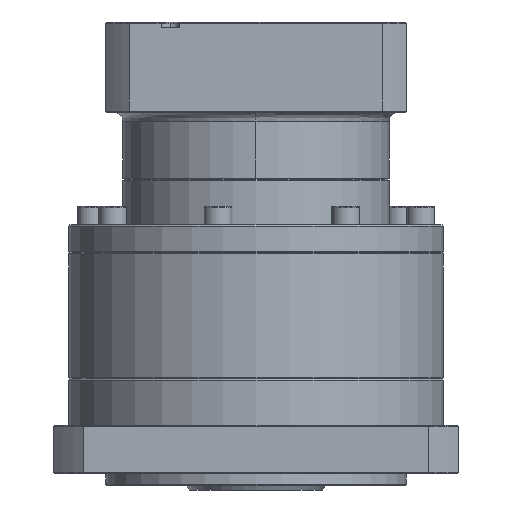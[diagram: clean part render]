
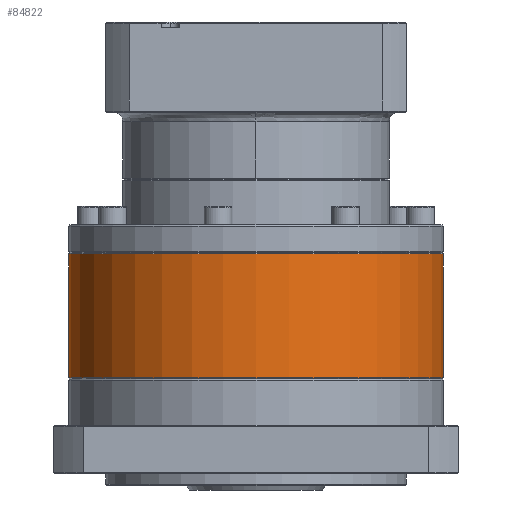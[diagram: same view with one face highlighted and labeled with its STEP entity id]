
A CAD part, left-side view. The second image highlights one B-rep face of the part: STEP entity #84822.
In plain terms, the highlighted cylindrical face has radius 81 mm (diameter 162 mm), a partial arc.
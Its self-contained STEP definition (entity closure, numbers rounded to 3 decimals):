
#1466 = AXIS2_PLACEMENT_3D ( 'NONE', #98464, #73414, #89413 ) ;
#2026 = ORIENTED_EDGE ( 'NONE', *, *, #23699, .F. ) ;
#3093 = DIRECTION ( 'NONE',  ( 0., 0., -1. ) ) ;
#3280 = CARTESIAN_POINT ( 'NONE',  ( -129.032, 142.212, -75.292 ) ) ;
#4763 = DIRECTION ( 'NONE',  ( 0., 0., -1. ) ) ;
#8259 = CYLINDRICAL_SURFACE ( 'NONE', #1466, 81. ) ;
#8547 = EDGE_CURVE ( 'NONE', #18905, #92610, #34177, .T. ) ;
#8886 = CARTESIAN_POINT ( 'NONE',  ( -129.032, 142.212, -129.292 ) ) ;
#11123 = DIRECTION ( 'NONE',  ( 0., 0., -1. ) ) ;
#11891 = VERTEX_POINT ( 'NONE', #96924 ) ;
#14584 = FACE_OUTER_BOUND ( 'NONE', #18323, .T. ) ;
#15662 = ORIENTED_EDGE ( 'NONE', *, *, #40396, .T. ) ;
#15927 = CIRCLE ( 'NONE', #36919, 81. ) ;
#18323 = EDGE_LOOP ( 'NONE', ( #55068, #15662, #101093, #49525, #2026 ) ) ;
#18905 = VERTEX_POINT ( 'NONE', #73704 ) ;
#19990 = CARTESIAN_POINT ( 'NONE',  ( -210.032, 61.212, -75.792 ) ) ;
#21592 = DIRECTION ( 'NONE',  ( 0., 0., -1. ) ) ;
#22157 = VERTEX_POINT ( 'NONE', #61364 ) ;
#23699 = EDGE_CURVE ( 'NONE', #22157, #92610, #15927, .T. ) ;
#24618 = CIRCLE ( 'NONE', #95183, 81. ) ;
#25431 = VERTEX_POINT ( 'NONE', #19990 ) ;
#32966 = VECTOR ( 'NONE', #88851, 1000. ) ;
#34177 = LINE ( 'NONE', #3280, #32966 ) ;
#35241 = CIRCLE ( 'NONE', #96067, 81. ) ;
#35667 = CARTESIAN_POINT ( 'NONE',  ( -129.032, 61.212, -75.792 ) ) ;
#36806 = EDGE_CURVE ( 'NONE', #11891, #22157, #65140, .T. ) ;
#36919 = AXIS2_PLACEMENT_3D ( 'NONE', #53618, #4763, #37412 ) ;
#37412 = DIRECTION ( 'NONE',  ( 0., -1., 0. ) ) ;
#38827 = CARTESIAN_POINT ( 'NONE',  ( -129.032, 61.212, -75.792 ) ) ;
#40396 = EDGE_CURVE ( 'NONE', #11891, #25431, #35241, .T. ) ;
#42092 = CARTESIAN_POINT ( 'NONE',  ( -129.032, -19.788, -75.292 ) ) ;
#42748 = DIRECTION ( 'NONE',  ( 0., 1., 0. ) ) ;
#43718 = VECTOR ( 'NONE', #3093, 1000. ) ;
#49525 = ORIENTED_EDGE ( 'NONE', *, *, #8547, .T. ) ;
#53618 = CARTESIAN_POINT ( 'NONE',  ( -129.032, 61.212, -129.292 ) ) ;
#55068 = ORIENTED_EDGE ( 'NONE', *, *, #36806, .F. ) ;
#59334 = EDGE_CURVE ( 'NONE', #25431, #18905, #24618, .T. ) ;
#61364 = CARTESIAN_POINT ( 'NONE',  ( -129.032, -19.788, -129.292 ) ) ;
#65140 = LINE ( 'NONE', #42092, #43718 ) ;
#73414 = DIRECTION ( 'NONE',  ( 0., 0., -1. ) ) ;
#73704 = CARTESIAN_POINT ( 'NONE',  ( -129.032, 142.212, -75.792 ) ) ;
#84822 = ADVANCED_FACE ( 'NONE', ( #14584 ), #8259, .T. ) ;
#88851 = DIRECTION ( 'NONE',  ( 0., 0., -1. ) ) ;
#89413 = DIRECTION ( 'NONE',  ( 0., 1., 0. ) ) ;
#92610 = VERTEX_POINT ( 'NONE', #8886 ) ;
#94779 = DIRECTION ( 'NONE',  ( 0., 1., 0. ) ) ;
#95183 = AXIS2_PLACEMENT_3D ( 'NONE', #35667, #11123, #42748 ) ;
#96067 = AXIS2_PLACEMENT_3D ( 'NONE', #38827, #21592, #94779 ) ;
#96924 = CARTESIAN_POINT ( 'NONE',  ( -129.032, -19.788, -75.792 ) ) ;
#98464 = CARTESIAN_POINT ( 'NONE',  ( -129.032, 61.212, -75.292 ) ) ;
#101093 = ORIENTED_EDGE ( 'NONE', *, *, #59334, .T. ) ;
